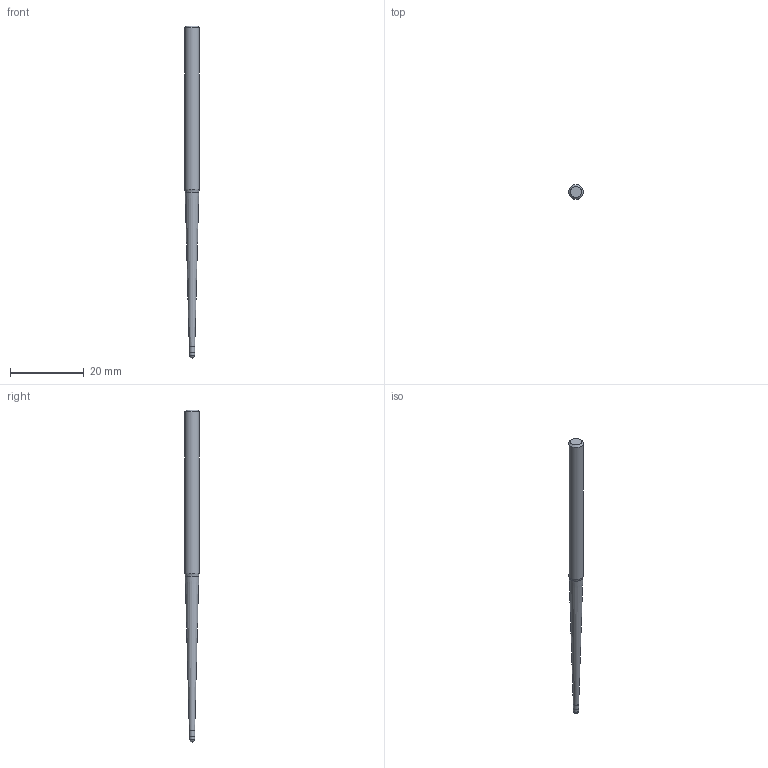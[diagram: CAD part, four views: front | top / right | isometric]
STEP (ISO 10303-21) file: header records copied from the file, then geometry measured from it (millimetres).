
FILE_DESCRIPTION((''),'2;1');
FILE_NAME('C:\Users\nsx150\AppData\Local\Temp\Mastercam 2021\SNAKH10GOD\TEMP.step','2021-10-21T13:32:55',(''),(''),'STEP Write','Mastercam 2021 ... CNC Software, Inc.','');
FILE_SCHEMA(('AUTOMOTIVE_DESIGN'));
Length unit declared in the file: millimetre
Products named in the file (1): None
Bounding box: 4 x 4 x 90 mm (x, y, z)
Volume: 803.4 mm3; surface area: 933.7 mm2
Topology: 2 solids, 2 shells, 10 faces, 16 edges, 9 vertices
Faces by surface type: plane 3, cylinder 3, cone 3, sphere 1
Full cylindrical faces by diameter (mm): 1.485 x1, 1.5 x1, 4 x1
Entity records: 232 total; most frequent: DIRECTION 40, CARTESIAN_POINT 28, AXIS2_PLACEMENT_3D 20, ORIENTED_EDGE 16, EDGE_LOOP 16, STYLED_ITEM 13, ADVANCED_FACE 10, FACE_BOUND 9
